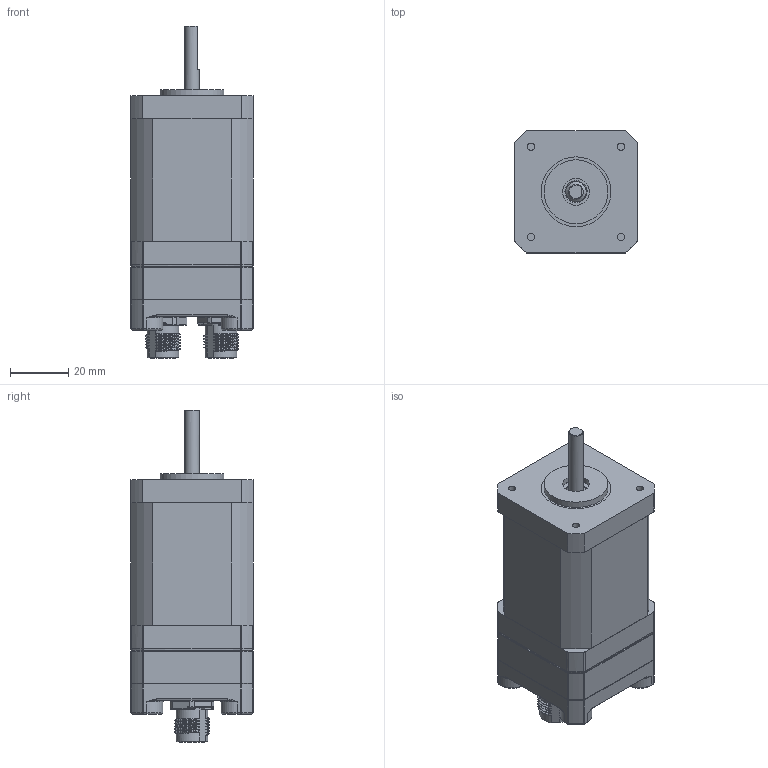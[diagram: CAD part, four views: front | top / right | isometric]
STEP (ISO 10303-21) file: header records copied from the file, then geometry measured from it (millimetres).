
FILE_DESCRIPTION (( 'STEP AP214' ), '1' );
FILE_NAME ('M42SH60 BAO.STEP', '2021-11-30T11:27:13', ( '' ), ( '' ), 'SwSTEP 2.0', 'SolidWorks 2019', '' );
FILE_SCHEMA (( 'AUTOMOTIVE_DESIGN' ));
Length unit declared in the file: millimetre
Products named in the file (16): 1457526; Flangia A 42 BAO; Statore M42SH60 BAO; TBEO17; Flangia P 42 BAO; 1457555; Albero M42SH60 BAO; TBEO17_P; BS-05P2NN2000G_SW0001; SKF_625-Z; VITCCS-M3-667-FM BAO; pan head cross recess screw_din_DIN EN ISO 7045 - M3 x 6 - Z - 6N; M42SH60 BAO; 1416145_bz; 1416145; SKF_607-Z
Assembly tree (21 placements, depth 3):
  M42SH60 BAO
    Flangia A 42 BAO
    SKF_607-Z
    SKF_625-Z
    Flangia P 42 BAO
    TBEO17
    TBEO17_P
    pan head cross recess screw_din_DIN EN ISO 7045 - M3 x 6 - Z - 6N  x4
    1416145
    1457526
      BS-05P2NN2000G_SW0001
    1457555
    1416145_bz
    Statore M42SH60 BAO
    Albero M42SH60 BAO
    VITCCS-M3-667-FM BAO  x4
Bounding box: 42 x 42 x 114.14 mm (x, y, z)
Volume: 58820 mm3; surface area: 56427.3 mm2
Topology: 48 solids, 48 shells, 3323 faces, 8406 edges, 5331 vertices
Faces by surface type: plane 1307, bspline 837, cylinder 698, torus 331, cone 112, sphere 38
Full cylindrical faces by diameter (mm): 0.217 x1, 0.28 x1, 0.75 x2, 0.8 x16, 0.85 x1, 1 x10, 1.3 x1, 1.9 x3, 2 x4, 2.5 x8, 3 x4, 3.1 x4, 3.2 x8, 3.4 x4, 3.8 x4, 4.8 x4, 5 x7, 5.5 x4, 5.6 x4, 6 x5, 7 x2, 7.3 x4, 8 x4, 8.3 x2, 8.4 x3, 8.6 x1, 8.7 x4, 9.25 x1, 9.3 x4, 9.4 x2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
Entity records: 167079 total; most frequent: CARTESIAN_POINT 91737, ORIENTED_EDGE 14756, DIRECTION 11941, EDGE_CURVE 7378, VERTEX_POINT 4864, AXIS2_PLACEMENT_3D 4200, EDGE_LOOP 3740, VECTOR 3541
